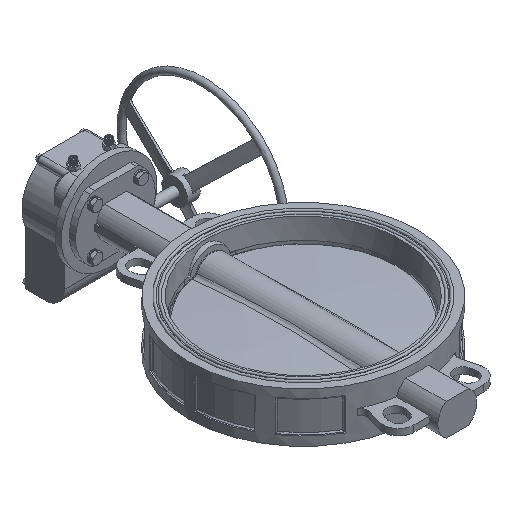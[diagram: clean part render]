
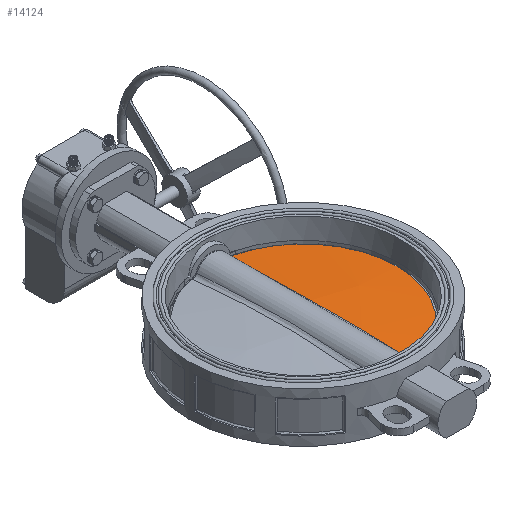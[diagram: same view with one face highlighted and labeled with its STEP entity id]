
A CAD part, isometric view. The second image highlights one B-rep face of the part: STEP entity #14124.
In plain terms, the highlighted spherical face has radius 1896.8 mm.
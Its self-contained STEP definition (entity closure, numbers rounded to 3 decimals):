
#120 = ORIENTED_EDGE ( 'NONE', *, *, #40525, .T. ) ;
#962 = EDGE_LOOP ( 'NONE', ( #33899, #6225, #120, #3418 ) ) ;
#2465 = CARTESIAN_POINT ( 'NONE',  ( 13.723, 22.761, 10.677 ) ) ;
#2687 = CARTESIAN_POINT ( 'NONE',  ( 15.114, -96.922, 8.391 ) ) ;
#2946 = CARTESIAN_POINT ( 'NONE',  ( 16.217, 130.326, 6.223 ) ) ;
#3392 = CARTESIAN_POINT ( 'NONE',  ( 14.24, 58.649, 9.876 ) ) ;
#3418 = ORIENTED_EDGE ( 'NONE', *, *, #44208, .T. ) ;
#3708 = CARTESIAN_POINT ( 'NONE',  ( -14.451, -1.218, -1885.797 ) ) ;
#4462 = CARTESIAN_POINT ( 'NONE',  ( -14.451, -1.218, 5.255 ) ) ;
#5558 = CARTESIAN_POINT ( 'NONE',  ( 19.859, -144.695, 5.255 ) ) ;
#5672 = CARTESIAN_POINT ( 'NONE',  ( -14.451, -144.695, -1885.797 ) ) ;
#6225 = ORIENTED_EDGE ( 'NONE', *, *, #7479, .T. ) ;
#6250 = AXIS2_PLACEMENT_3D ( 'NONE', #5672, #44647, #33932 ) ;
#7202 = DIRECTION ( 'NONE',  ( 0., 0., -1. ) ) ;
#7479 = EDGE_CURVE ( 'NONE', #44725, #10891, #44009, .T. ) ;
#9350 = SPHERICAL_SURFACE ( 'NONE', #22314, 1896.797 ) ;
#10891 = VERTEX_POINT ( 'NONE', #5558 ) ;
#13064 = DIRECTION ( 'NONE',  ( -1., 0., 0. ) ) ;
#13160 = CARTESIAN_POINT ( 'NONE',  ( 13.646, -13.162, 10.792 ) ) ;
#13946 = FACE_OUTER_BOUND ( 'NONE', #962, .T. ) ;
#14124 = ADVANCED_FACE ( 'NONE', ( #13946 ), #9350, .T. ) ;
#15353 = DIRECTION ( 'NONE',  ( -1., 0., 0. ) ) ;
#16801 = CARTESIAN_POINT ( 'NONE',  ( 15.83, 118.388, 7.021 ) ) ;
#17035 = CARTESIAN_POINT ( 'NONE',  ( 16.605, 142.259, 5.311 ) ) ;
#17262 = CARTESIAN_POINT ( 'NONE',  ( 13.723, -25.134, 10.678 ) ) ;
#19120 = CIRCLE ( 'NONE', #45062, 1891.363 ) ;
#20081 = CARTESIAN_POINT ( 'NONE',  ( 16.605, -144.695, 5.311 ) ) ;
#22314 = AXIS2_PLACEMENT_3D ( 'NONE', #3708, #42164, #13064 ) ;
#25020 = DIRECTION ( 'NONE',  ( 0., -1., 0. ) ) ;
#26716 = CARTESIAN_POINT ( 'NONE',  ( 19.859, 142.259, 5.255 ) ) ;
#27688 = CARTESIAN_POINT ( 'NONE',  ( 14.787, 82.556, 8.961 ) ) ;
#27779 = CIRCLE ( 'NONE', #39627, 147.522 ) ;
#30722 = CARTESIAN_POINT ( 'NONE',  ( 14.786, -84.965, 8.963 ) ) ;
#30966 = CARTESIAN_POINT ( 'NONE',  ( 16.217, -132.761, 6.223 ) ) ;
#31205 = CARTESIAN_POINT ( 'NONE',  ( 15.115, 94.503, 8.39 ) ) ;
#31433 = CARTESIAN_POINT ( 'NONE',  ( 15.83, -120.82, 7.021 ) ) ;
#32508 = DIRECTION ( 'NONE',  ( 0., 0., 1. ) ) ;
#33899 = ORIENTED_EDGE ( 'NONE', *, *, #38774, .T. ) ;
#33932 = DIRECTION ( 'NONE',  ( 0., 0., 1. ) ) ;
#34883 = CARTESIAN_POINT ( 'NONE',  ( 14.02, 46.69, 10.219 ) ) ;
#37723 = VERTEX_POINT ( 'NONE', #37943 ) ;
#37943 = CARTESIAN_POINT ( 'NONE',  ( 16.605, 142.259, 5.311 ) ) ;
#38378 = CARTESIAN_POINT ( 'NONE',  ( 13.646, 10.789, 10.792 ) ) ;
#38774 = EDGE_CURVE ( 'NONE', #37723, #44725, #42555, .T. ) ;
#39004 = VERTEX_POINT ( 'NONE', #26716 ) ;
#39627 = AXIS2_PLACEMENT_3D ( 'NONE', #4462, #32508, #15353 ) ;
#40525 = EDGE_CURVE ( 'NONE', #10891, #39004, #27779, .T. ) ;
#40534 = CARTESIAN_POINT ( 'NONE',  ( 16.605, -144.695, 5.311 ) ) ;
#42077 = CARTESIAN_POINT ( 'NONE',  ( 14.019, -49.073, 10.22 ) ) ;
#42164 = DIRECTION ( 'NONE',  ( 0., 1., 0. ) ) ;
#42555 = B_SPLINE_CURVE_WITH_KNOTS ( 'NONE', 3,
 ( #17035, #2946, #16801, #31205, #27688, #3392, #34883, #2465, #38378, #13160, #17262, #42077, #45137, #30722, #2687, #31433, #30966, #20081 ),
 .UNSPECIFIED., .F., .F.,
 ( 4, 2, 2, 2, 2, 2, 2, 2, 4 ),
 ( 0.001, 0.037, 0.073, 0.108, 0.144, 0.18, 0.216, 0.252, 0.288 ),
 .UNSPECIFIED. ) ;
#42670 = CARTESIAN_POINT ( 'NONE',  ( -14.451, 142.259, -1885.797 ) ) ;
#44009 = CIRCLE ( 'NONE', #6250, 1891.363 ) ;
#44208 = EDGE_CURVE ( 'NONE', #39004, #37723, #19120, .T. ) ;
#44647 = DIRECTION ( 'NONE',  ( 0., 1., 0. ) ) ;
#44725 = VERTEX_POINT ( 'NONE', #40534 ) ;
#45062 = AXIS2_PLACEMENT_3D ( 'NONE', #42670, #25020, #7202 ) ;
#45137 = CARTESIAN_POINT ( 'NONE',  ( 14.239, -61.039, 9.877 ) ) ;
